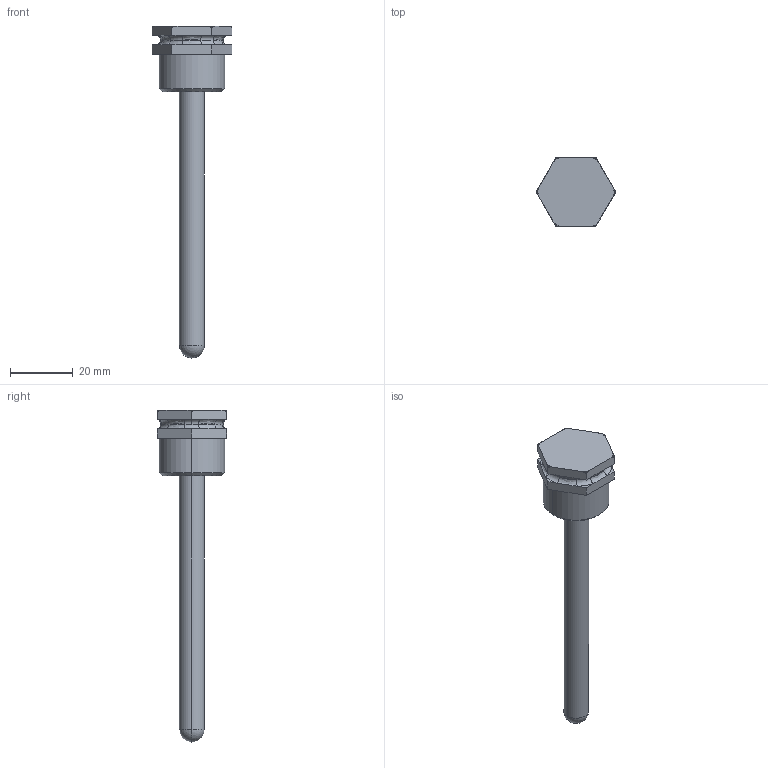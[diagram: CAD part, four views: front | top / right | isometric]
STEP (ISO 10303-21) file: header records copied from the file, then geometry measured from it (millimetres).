
FILE_DESCRIPTION (( 'STEP AP214' ), '1' );
FILE_NAME ('555002.STEP', '2022-03-15T10:37:25', ( '' ), ( '' ), 'SwSTEP 2.0', 'SolidWorks 2021', '' );
FILE_SCHEMA (( 'AUTOMOTIVE_DESIGN' ));
Length unit declared in the file: millimetre
Products named in the file (1): 555002
Bounding box: 25.4 x 22.03 x 106 mm (x, y, z)
Volume: 11826 mm3; surface area: 4452.1 mm2
Topology: 1 solids, 1 shells, 116 faces, 271 edges, 157 vertices
Faces by surface type: bspline 48, plane 27, cylinder 23, torus 14, sphere 2, cone 2
Entity records: 6849 total; most frequent: CARTESIAN_POINT 3290, ORIENTED_EDGE 534, DIRECTION 351, EDGE_CURVE 267, VERTEX_POINT 155, AXIS2_PLACEMENT_3D 136, B_SPLINE_CURVE_WITH_KNOTS 121, UNCERTAINTY_MEASURE_WITH_UNIT 119
